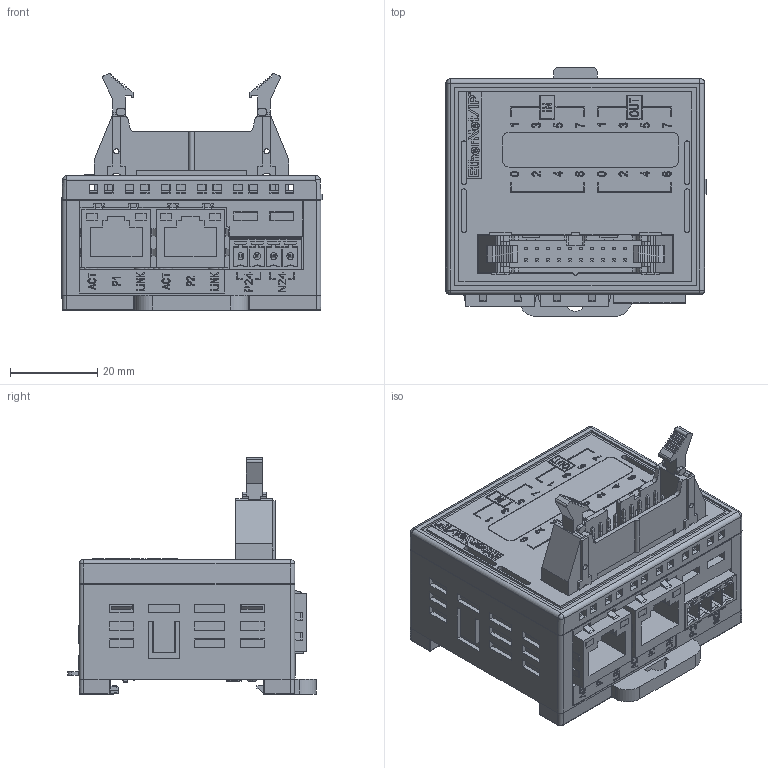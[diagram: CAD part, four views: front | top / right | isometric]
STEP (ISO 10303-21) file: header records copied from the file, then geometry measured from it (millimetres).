
FILE_DESCRIPTION((''),'2;1');
FILE_NAME('EICMP88','2026-05-11T14:28:37',('gijyu181'),(''),'CREO PARAMETRIC BY PTC INC, 2018050','CREO PARAMETRIC BY PTC INC, 2018050','');
FILE_SCHEMA(('CONFIG_CONTROL_DESIGN','SHAPE_APPEARANCE_LAYERS_GROUPS'));
Products named in the file (1): EICMP88
Bounding box: 59.75 x 57.15 x 54.5 mm (x, y, z)
Volume: 70719.6 mm3; surface area: 38772.8 mm2
Topology: 1 solids, 15 shells, 6214 faces, 17202 edges, 11315 vertices
Faces by surface type: plane 4764, cylinder 683, extrusion 653, sphere 44, torus 26, bspline 24, cone 20
Entity records: 247488 total; most frequent: CARTESIAN_POINT 43117, ORIENTED_EDGE 34376, DIRECTION 28678, EDGE_CURVE 17192, VECTOR 14830, LINE 14177, VERTEX_POINT 11315, PRESENTATION_STYLE_ASSIGNMENT 9422
